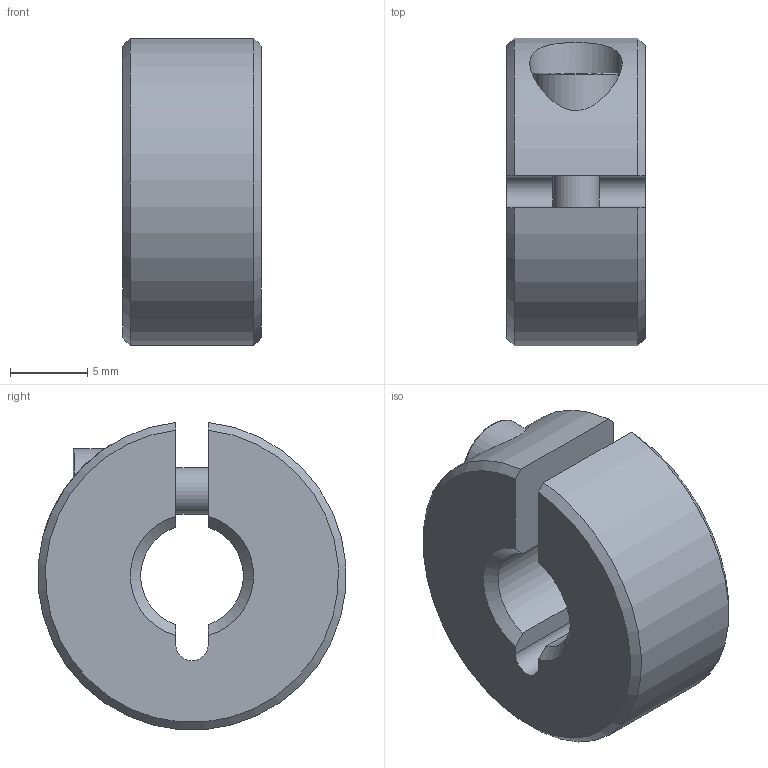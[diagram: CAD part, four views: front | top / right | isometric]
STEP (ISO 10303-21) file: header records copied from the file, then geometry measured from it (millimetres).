
FILE_DESCRIPTION( ( 'STEP AP203' ), '1' );
FILE_NAME( 'C:/Temp/Ganter_Step_05_03_2020/data/3_2/gn706_3/gn706_3_st/Threaded set collar GN 706.3-20-M8-ST.stp', '2020-03-13T05:33:32', ( 'License CC BY-ND 4.0' ), ( 'CADENAS' ), ' ', 'PARTsolutions', ' ' );
FILE_SCHEMA( ( 'CONFIG_CONTROL_DESIGN' ) );
Length unit declared in the file: millimetre
Products named in the file (1): _Threaded set collar GN 706.3-20-M8-ST
Bounding box: 9 x 19.94 x 19.91 mm (x, y, z)
Volume: 2299.5 mm3; surface area: 1543 mm2
Topology: 1 solids, 1 shells, 31 faces, 74 edges, 49 vertices
Faces by surface type: plane 16, cylinder 8, cone 6, torus 1
Full cylindrical faces by diameter (mm): 3 x1, 3.3 x1, 5.5 x1, 6 x1
Entity records: 1002 total; most frequent: CARTESIAN_POINT 253, DIRECTION 142, ORIENTED_EDGE 138, EDGE_CURVE 69, AXIS2_PLACEMENT_3D 54, VERTEX_POINT 49, EDGE_LOOP 42, FACE_OUTER_BOUND 36
